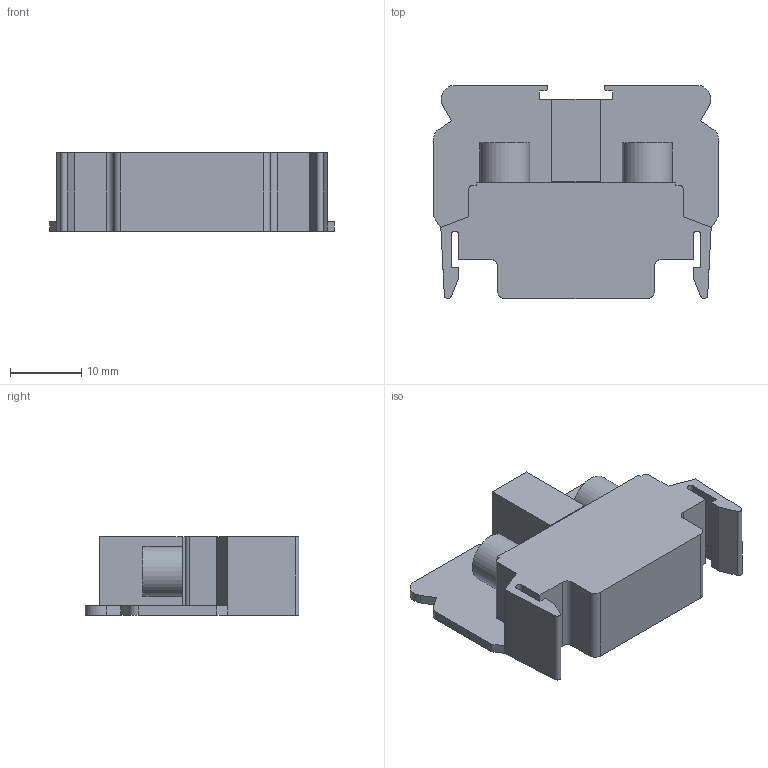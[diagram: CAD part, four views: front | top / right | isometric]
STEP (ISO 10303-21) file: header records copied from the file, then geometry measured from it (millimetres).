
FILE_DESCRIPTION(/* description */ (''),/* implementation_level */ '2;1');
FILE_NAME(/* name */ 'C:\Users\USERCADG105.FUJIDK\Desktop\TX-5.5S .stp',/* time_stamp */ '2024-11-28T17:01:23+09:00',/* author */ ('usercadg105'),/* organization */ (''),/* preprocessor_version */ 'ST-DEVELOPER v19',/* originating_system */ 'Autodesk Inventor 2023',/* authorisation */ '');
FILE_SCHEMA (('CONFIG_CONTROL_DESIGN'));
Length unit declared in the file: millimetre
Products named in the file (1): 23203-(TX-5.5S ﾕﾆｯﾄ□ CE)
Bounding box: 40 x 30 x 11 mm (x, y, z)
Volume: 7374.8 mm3; surface area: 4319.5 mm2
Topology: 1 solids, 1 shells, 72 faces, 202 edges, 134 vertices
Faces by surface type: plane 56, cylinder 16
Full cylindrical faces by diameter (mm): 7 x2
Entity records: 2345 total; most frequent: CARTESIAN_POINT 409, ORIENTED_EDGE 404, DIRECTION 380, EDGE_CURVE 202, LINE 170, VECTOR 170, VERTEX_POINT 134, AXIS2_PLACEMENT_3D 105
